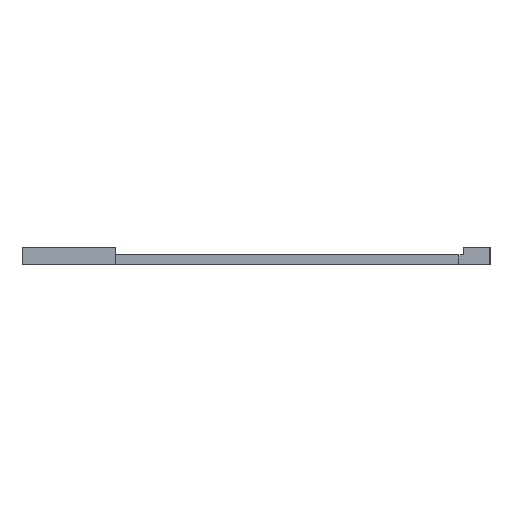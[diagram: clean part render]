
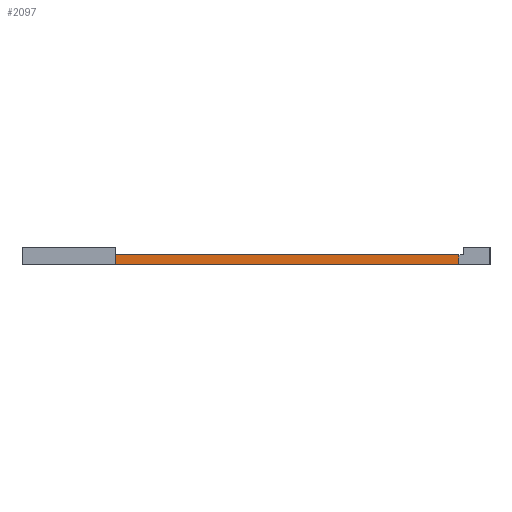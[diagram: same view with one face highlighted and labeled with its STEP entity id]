
A CAD part, left-side view. The second image highlights one B-rep face of the part: STEP entity #2097.
In plain terms, the highlighted planar face has unit normal (-1, 0, 0) as drawn and (1, 0, 0) by its records, which use the part's own axes.
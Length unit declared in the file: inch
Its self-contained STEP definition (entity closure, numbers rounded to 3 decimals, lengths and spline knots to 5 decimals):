
#70 = DIRECTION ( 'NONE',  ( 0., 1., 0. ) ) ;
#184 = DIRECTION ( 'NONE',  ( 0., 0., 1. ) ) ;
#232 = CARTESIAN_POINT ( 'NONE',  ( 1.375, -0.03, 0.125 ) ) ;
#270 = VECTOR ( 'NONE', #184, 39.37008 ) ;
#291 = VERTEX_POINT ( 'NONE', #868 ) ;
#296 = EDGE_CURVE ( 'NONE', #291, #830, #1537, .T. ) ;
#366 = EDGE_CURVE ( 'NONE', #1642, #291, #1613, .T. ) ;
#555 = DIRECTION ( 'NONE',  ( -1., 0., 0. ) ) ;
#781 = EDGE_CURVE ( 'NONE', #1642, #2071, #986, .T. ) ;
#830 = VERTEX_POINT ( 'NONE', #1186 ) ;
#868 = CARTESIAN_POINT ( 'NONE',  ( 1.375, 0., 0.125 ) ) ;
#909 = EDGE_LOOP ( 'NONE', ( #1428, #1457, #1220, #2074 ) ) ;
#919 = DIRECTION ( 'NONE',  ( 0., 0., 1. ) ) ;
#964 = CARTESIAN_POINT ( 'NONE',  ( 1.375, 0.04, -1.25 ) ) ;
#981 = VECTOR ( 'NONE', #1898, 39.37008 ) ;
#986 = LINE ( 'NONE', #1147, #1966 ) ;
#1097 = DIRECTION ( 'NONE',  ( 0., 0., 1. ) ) ;
#1130 = EDGE_CURVE ( 'NONE', #2071, #830, #1298, .T. ) ;
#1147 = CARTESIAN_POINT ( 'NONE',  ( 1.375, -0.03, -1.25 ) ) ;
#1186 = CARTESIAN_POINT ( 'NONE',  ( 1.375, 0.04, 0.125 ) ) ;
#1220 = ORIENTED_EDGE ( 'NONE', *, *, #296, .F. ) ;
#1298 = LINE ( 'NONE', #1494, #1956 ) ;
#1316 = PLANE ( 'NONE',  #1433 ) ;
#1325 = CARTESIAN_POINT ( 'NONE',  ( 1.375, 0., -1.25 ) ) ;
#1428 = ORIENTED_EDGE ( 'NONE', *, *, #781, .T. ) ;
#1433 = AXIS2_PLACEMENT_3D ( 'NONE', #232, #555, #919 ) ;
#1457 = ORIENTED_EDGE ( 'NONE', *, *, #1130, .T. ) ;
#1494 = CARTESIAN_POINT ( 'NONE',  ( 1.375, 0.04, 0.125 ) ) ;
#1537 = LINE ( 'NONE', #2256, #981 ) ;
#1613 = LINE ( 'NONE', #1994, #270 ) ;
#1631 = FACE_OUTER_BOUND ( 'NONE', #909, .T. ) ;
#1642 = VERTEX_POINT ( 'NONE', #1325 ) ;
#1898 = DIRECTION ( 'NONE',  ( 0., 1., 0. ) ) ;
#1956 = VECTOR ( 'NONE', #1097, 39.37008 ) ;
#1966 = VECTOR ( 'NONE', #70, 39.37008 ) ;
#1994 = CARTESIAN_POINT ( 'NONE',  ( 1.375, 0., 0. ) ) ;
#2071 = VERTEX_POINT ( 'NONE', #964 ) ;
#2074 = ORIENTED_EDGE ( 'NONE', *, *, #366, .F. ) ;
#2097 = ADVANCED_FACE ( 'NONE', ( #1631 ), #1316, .F. ) ;
#2256 = CARTESIAN_POINT ( 'NONE',  ( 1.375, -0.03, 0.125 ) ) ;
